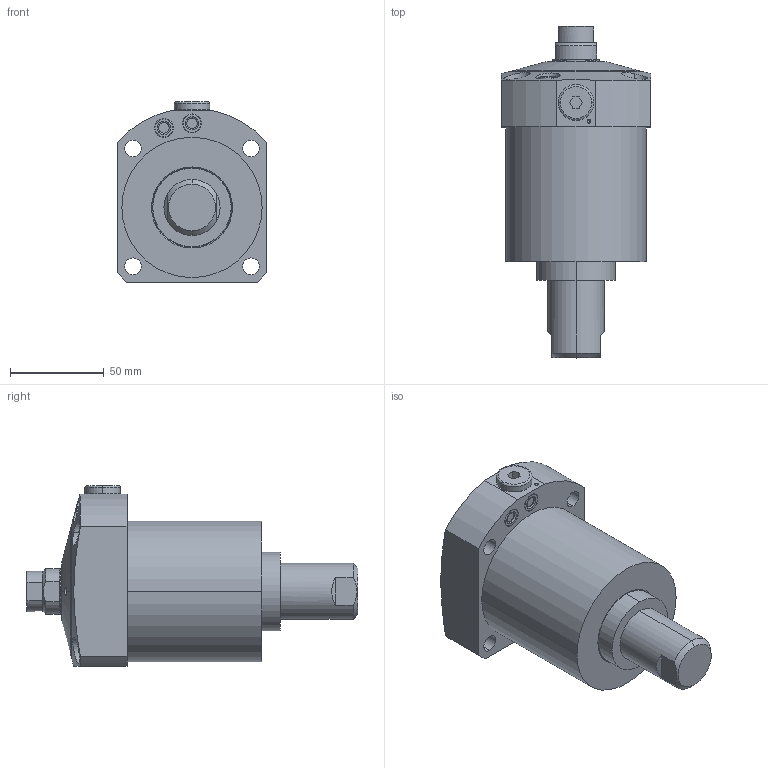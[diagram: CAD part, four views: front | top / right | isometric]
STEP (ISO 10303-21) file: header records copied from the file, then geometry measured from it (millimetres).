
FILE_DESCRIPTION(/* description */ (''),/* implementation_level */ '2;1');
FILE_NAME(/* name */ 'KFSC75-Q.stp',/* time_stamp */ '2023-01-10T13:14:36+08:00',/* author */ (''),/* organization */ (''),/* preprocessor_version */ 'ST-DEVELOPER v16.7',/* originating_system */ 'SIEMENS PLM Software NX 12.0',/* authorisation */ '');
FILE_SCHEMA (('AP203_CONFIGURATION_CONTROLLED_3D_DESIGN_OF_MECHANICAL_PARTS_AND_ASSEMBLIES_MIM_LF { 1 0 10303 403 2 1 2}'));
Length unit declared in the file: millimetre
Products named in the file (8): KFSC75-Q-2; KFSC75-Q-1; KFSC75-Q-5; KFSC75-Q-6; KFSC75-Q-7; KFSC75-Q-4; KFSC75-Q-3; LC0752-C-Q_step
Assembly tree (8 placements, depth 2):
  LC0752-C-Q_step
    KFSC75-Q-3
    KFSC75-Q-4
    KFSC75-Q-7  x2
    KFSC75-Q-6
    KFSC75-Q-5
    KFSC75-Q-1
    KFSC75-Q-2
Bounding box: 80 x 177.5 x 96.5 mm (x, y, z)
Volume: 565465.3 mm3; surface area: 62057 mm2
Topology: 8 solids, 8 shells, 222 faces, 489 edges, 302 vertices
Faces by surface type: cylinder 85, plane 65, cone 42, torus 28, sphere 2
Entity records: 6958 total; most frequent: CARTESIAN_POINT 1235, DIRECTION 1098, ORIENTED_EDGE 918, EDGE_CURVE 459, AXIS2_PLACEMENT_3D 457, VERTEX_POINT 288, EDGE_LOOP 247, CIRCLE 238
